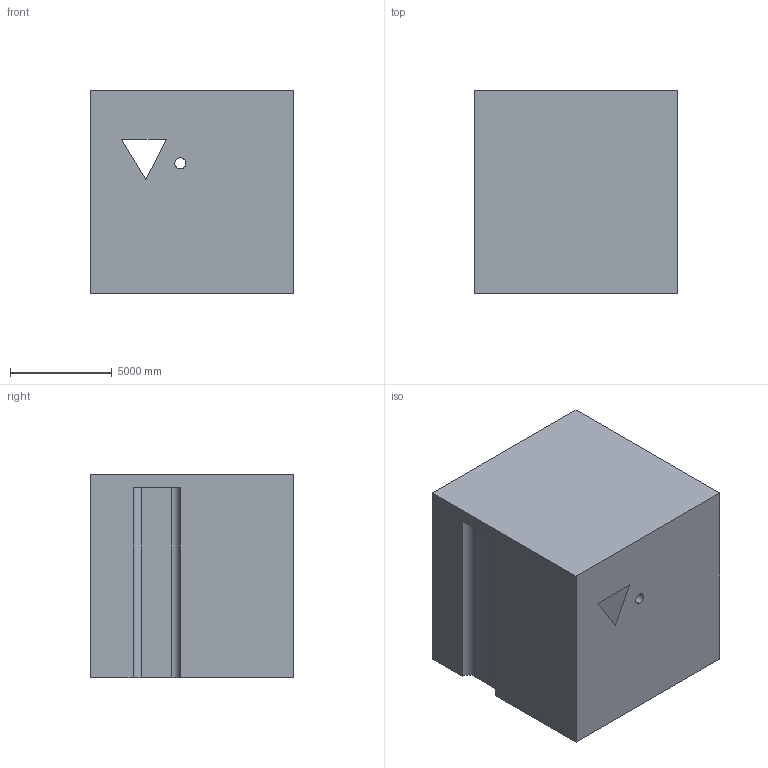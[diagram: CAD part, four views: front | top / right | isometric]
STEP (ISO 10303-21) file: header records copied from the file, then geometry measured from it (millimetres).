
FILE_DESCRIPTION (( 'STEP AP203' ), '1' );
FILE_NAME ('129.STEP', '2022-09-05T15:38:32', ( 'user' ), ( '' ), 'SwSTEP 2.0', 'SolidWorks 2021', '' );
FILE_SCHEMA (( 'CONFIG_CONTROL_DESIGN' ));
Length unit declared in the file: centimetre
Products named in the file (1): 129
Bounding box: 10000 x 10000 x 10000 mm (x, y, z)
Volume: 967592206297.6 mm3; surface area: 684051881.1 mm2
Topology: 1 solids, 1 shells, 15 faces, 39 edges, 26 vertices
Faces by surface type: plane 11, cylinder 4
Entity records: 546 total; most frequent: CARTESIAN_POINT 81, DIRECTION 79, ORIENTED_EDGE 78, EDGE_CURVE 39, VECTOR 31, LINE 31, VERTEX_POINT 26, AXIS2_PLACEMENT_3D 24
